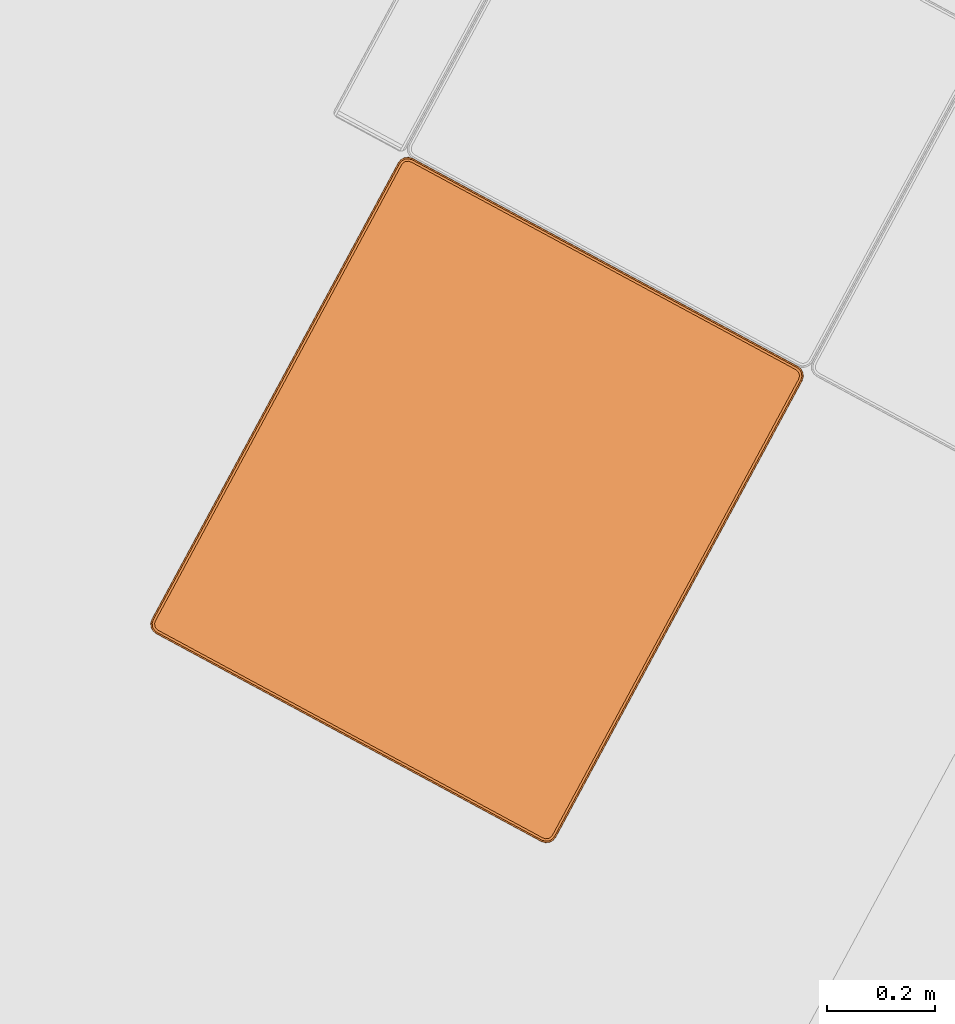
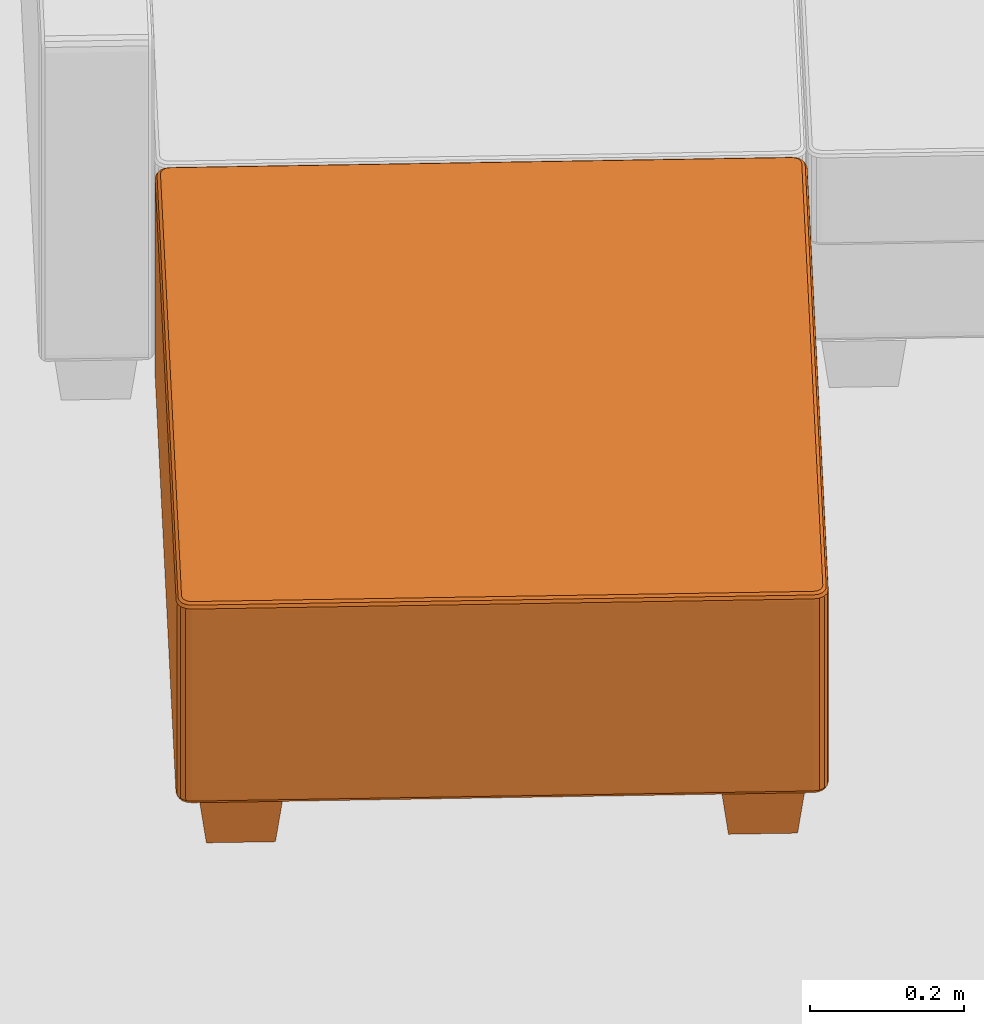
# One storey, part 44 of 52: 1 proxy.
"""IFC2X3 building model written with IfcOpenShell, lengths in metres."""

from ifc_helpers import new_model, entity, si_unit, converted_unit, derived_unit, money_unit, direction, frame, origin_with_axes, place, context, subcontext, project, spatial, faceted_brep, type_object, element, save


model = new_model("IFC2X3")

# Units and contexts
model_context = context("Model", 3, precision=1e-05, world=origin_with_axes(), true_north=direction((0.0, 1.0)))
body_context = subcontext(model_context, "Body", "Model", "MODEL_VIEW")
ifc_project = project(units=[si_unit("LENGTHUNIT", "METRE"), si_unit("AREAUNIT", "SQUARE_METRE"), si_unit("VOLUMEUNIT", "CUBIC_METRE"), converted_unit("PLANEANGLEUNIT", "DEGREE", entity("IfcPlaneAngleMeasure", 0.0174532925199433), si_unit("PLANEANGLEUNIT", "RADIAN"), dimensions=[0, 0, 0, 0, 0, 0, 0]), money_unit("EUR"), converted_unit("TIMEUNIT", "Year", entity("IfcTimeMeasure", 31556926.0), si_unit("TIMEUNIT", "SECOND"), dimensions=[0, 0, 1, 0, 0, 0, 0]), si_unit("MASSUNIT", "GRAM", prefix="KILO"), si_unit("THERMODYNAMICTEMPERATUREUNIT", "DEGREE_CELSIUS"), si_unit("LUMINOUSINTENSITYUNIT", "LUMEN"), si_unit("ENERGYUNIT", "JOULE", prefix="MEGA"), derived_unit("THERMALCONDUCTANCEUNIT", [(si_unit("POWERUNIT", "WATT"), 1), (si_unit("LENGTHUNIT", "METRE"), -1), (si_unit("THERMODYNAMICTEMPERATUREUNIT", "KELVIN"), -1)]), derived_unit("SPECIFICHEATCAPACITYUNIT", [(si_unit("ENERGYUNIT", "JOULE"), 1), (si_unit("MASSUNIT", "GRAM", prefix="KILO"), -1), (si_unit("THERMODYNAMICTEMPERATUREUNIT", "KELVIN"), -1)]), derived_unit("MASSDENSITYUNIT", [(si_unit("MASSUNIT", "GRAM", prefix="KILO"), 1), (si_unit("VOLUMEUNIT", "CUBIC_METRE"), -1)])], contexts=[model_context])

# Site, building, storey
site_placement = place(None, frame((-3.949935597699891, 1.740105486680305, 0.0), z_axis=(0.0, 0.0, 1.0), x_axis=(0.8799804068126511, -0.475009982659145, 0.0)))
site = spatial("IfcSite", under=ifc_project, at=site_placement, Name="Gelände", CompositionType="ELEMENT")
building_placement = place(site_placement, origin_with_axes())
building = spatial("IfcBuilding", under=site, at=building_placement, Name="Gebäude", CompositionType="ELEMENT")
storey_placement = place(building_placement, origin_with_axes())
storey = spatial("IfcBuildingStorey", under=building, at=storey_placement, Name="Erdgeschoss", CompositionType="ELEMENT", Elevation=0.0)

# Proxy
building_element_proxy_type = type_object("IfcBuildingElementProxyType", Name="Sofa Set 01 17", PredefinedType="NOTDEFINED")
proxy_placement = place(storey_placement, frame((6.702306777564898, 4.766019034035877, 0.0), z_axis=(0.0, 0.0, 1.0), x_axis=(0.0, 1.0, 0.0)))
element("IfcBuildingElementProxy", 1, at=proxy_placement, inside=storey, type_object=building_element_proxy_type, Name="Objekt-0089", context=body_context, shape_type="Brep", body=[
    faceted_brep([(0.0, 0.02, 0.24), (-0.001522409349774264, 0.01234633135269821, 0.24), (-0.005857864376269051, 0.005857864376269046, 0.24), (-0.01234633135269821, 0.001522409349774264, 0.24), (-0.02, 0.0, 0.24), (-0.98, 0.0, 0.24), (-0.9876536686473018, 0.001522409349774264, 0.24), (-0.9941421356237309, 0.005857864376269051, 0.24), (-0.9984775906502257, 0.01234633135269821, 0.24), (-1.0, 0.02, 0.24), (-1.0, 0.8300048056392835, 0.24), (-0.9984775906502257, 0.8376584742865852, 0.24), (-0.9941421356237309, 0.8441469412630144, 0.24), (-0.9876536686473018, 0.8484823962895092, 0.24), (-0.98, 0.8500048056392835, 0.24), (-0.02, 0.8500048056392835, 0.24), (-0.01234633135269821, 0.8484823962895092, 0.24), (-0.005857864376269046, 0.8441469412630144, 0.24), (-0.001522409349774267, 0.8376584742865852, 0.24), (0.0, 0.8300048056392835, 0.24), (3.895163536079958e-10, 0.02000000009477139, 0.39), (-0.001522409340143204, 0.01234633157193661, 0.39), (-0.00585786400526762, 0.00585786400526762, 0.39), (-0.01234633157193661, 0.001522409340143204, 0.39), (-0.02000000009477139, -3.895163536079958e-10, 0.39), (-0.9800000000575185, -3.895163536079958e-10, 0.39), (-0.9876536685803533, 0.001522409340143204, 0.39), (-0.9941421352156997, 0.00585786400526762, 0.39), (-0.9984775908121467, 0.01234633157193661, 0.39), (-0.9999999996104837, 0.02000000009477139, 0.39), (-0.9999999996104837, 0.8300048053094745, 0.39), (-0.9984775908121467, 0.8376584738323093, 0.39), (-0.9941421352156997, 0.8441469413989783, 0.39), (-0.9876536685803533, 0.8484823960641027, 0.39), (-0.9800000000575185, 0.8500048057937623, 0.39), (-0.02000000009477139, 0.8500048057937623, 0.39), (-0.01234633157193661, 0.8484823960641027, 0.39), (-0.00585786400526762, 0.8441469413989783, 0.39), (-0.001522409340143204, 0.8376584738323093, 0.39), (3.895163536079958e-10, 0.8300048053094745, 0.39), (-0.0003407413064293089, 0.02003356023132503, 0.3925881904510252), (-0.001843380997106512, 0.01247928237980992, 0.3925881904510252), (-0.006103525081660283, 0.006103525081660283, 0.3925881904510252), (-0.01247928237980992, 0.001843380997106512, 0.3925881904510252), (-0.02003356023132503, 0.0003407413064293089, 0.3925881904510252), (-0.9799664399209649, 0.0003407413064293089, 0.3925881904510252), (-0.9875207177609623, 0.001843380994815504, 0.3925881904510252), (-0.993896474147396, 0.006103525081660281, 0.3925881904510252), (-0.9981566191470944, 0.01247928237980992, 0.3925881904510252), (-0.999659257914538, 0.02003356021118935, 0.3925881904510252), (-0.999659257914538, 0.8299712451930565, 0.3925881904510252), (-0.9981566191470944, 0.837525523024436, 0.3925881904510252), (-0.993896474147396, 0.8439012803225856, 0.3925881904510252), (-0.9875207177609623, 0.8481614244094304, 0.3925881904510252), (-0.9799664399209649, 0.8496640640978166, 0.3925881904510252), (-0.02003356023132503, 0.8496640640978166, 0.3925881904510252), (-0.01247928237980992, 0.8481614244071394, 0.3925881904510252), (-0.006103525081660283, 0.8439012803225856, 0.3925881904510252), (-0.001843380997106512, 0.837525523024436, 0.3925881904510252), (-0.0003407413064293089, 0.8299712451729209, 0.3925881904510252), (-0.002928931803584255, 0.02028847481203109, 0.3970710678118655), (-0.004281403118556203, 0.01348914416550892, 0.3970710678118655), (-0.007969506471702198, 0.007969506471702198, 0.3970710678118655), (-0.01348914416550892, 0.004281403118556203, 0.3970710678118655), (-0.02028847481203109, 0.002928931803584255, 0.3970710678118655), (-0.9797115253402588, 0.002928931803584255, 0.3970710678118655), (-0.9865108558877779, 0.004281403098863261, 0.3970710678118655), (-0.9920304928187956, 0.007969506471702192, 0.3970710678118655), (-0.9957185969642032, 0.0134891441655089, 0.3970710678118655), (-0.997071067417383, 0.02028847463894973, 0.3970710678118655), (-0.997071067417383, 0.8297163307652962, 0.3970710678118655), (-0.9957185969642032, 0.836515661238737, 0.3970710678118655), (-0.9920304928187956, 0.8420352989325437, 0.3970710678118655), (-0.9865108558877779, 0.8457234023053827, 0.3970710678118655), (-0.9797115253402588, 0.8470758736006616, 0.3970710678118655), (-0.02028847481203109, 0.8470758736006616, 0.3970710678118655), (-0.01348914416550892, 0.8457234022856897, 0.3970710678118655), (-0.007969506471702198, 0.8420352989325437, 0.3970710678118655), (-0.004281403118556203, 0.836515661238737, 0.3970710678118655), (-0.002928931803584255, 0.8297163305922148, 0.3970710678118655), (-0.007411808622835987, 0.02072999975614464, 0.3996592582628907), (-0.008504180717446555, 0.01523827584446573, 0.3996592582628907), (-0.01120148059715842, 0.01120148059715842, 0.3996592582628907), (-0.01523827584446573, 0.008504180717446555, 0.3996592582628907), (-0.02072999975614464, 0.007411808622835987, 0.3996592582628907), (-0.9792700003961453, 0.007411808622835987, 0.3996592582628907), (-0.9847617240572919, 0.008504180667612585, 0.3996592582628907), (-0.9887985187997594, 0.0112014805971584, 0.3996592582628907), (-0.9914958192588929, 0.0152382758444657, 0.3996592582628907), (-0.9925881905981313, 0.02072999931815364, 0.3996592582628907), (-0.9925881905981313, 0.8292748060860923, 0.3996592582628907), (-0.9914958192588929, 0.8347665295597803, 0.3996592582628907), (-0.9887985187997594, 0.8388033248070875, 0.3996592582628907), (-0.9847617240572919, 0.8415006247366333, 0.3996592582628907), (-0.9792700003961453, 0.8425929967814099, 0.3996592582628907), (-0.02072999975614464, 0.8425929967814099, 0.3996592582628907), (-0.01523827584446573, 0.8415006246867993, 0.3996592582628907), (-0.01120148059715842, 0.8388033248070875, 0.3996592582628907), (-0.008504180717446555, 0.8347665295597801, 0.3996592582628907), (-0.007411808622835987, 0.8292748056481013, 0.3996592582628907), (-0.01000000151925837, 0.02098491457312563, 0.4000000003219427), (-0.01094220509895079, 0.01624813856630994, 0.4000000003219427), (-0.01306746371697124, 0.01306746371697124, 0.4000000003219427), (-0.01624813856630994, 0.01094220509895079, 0.4000000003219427), (-0.02098491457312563, 0.01000000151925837, 0.4000000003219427), (-0.9790150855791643, 0.01000000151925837, 0.4000000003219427), (-0.9837518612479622, 0.01094220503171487, 0.4000000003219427), (-0.9869325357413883, 0.01306746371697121, 0.4000000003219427), (-0.989057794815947, 0.01624813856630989, 0.4000000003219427), (-0.989999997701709, 0.02098491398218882, 0.4000000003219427), (-0.989999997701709, 0.8290198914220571, 0.4000000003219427), (-0.989057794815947, 0.833756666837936, 0.4000000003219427), (-0.9869325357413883, 0.8369373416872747, 0.4000000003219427), (-0.9837518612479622, 0.839062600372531, 0.4000000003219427), (-0.9790150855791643, 0.8400048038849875, 0.4000000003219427), (-0.02098491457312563, 0.8400048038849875, 0.4000000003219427), (-0.01624813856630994, 0.8390626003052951, 0.4000000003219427), (-0.01306746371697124, 0.8369373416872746, 0.4000000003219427), (-0.01094220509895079, 0.8337566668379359, 0.4000000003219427), (-0.01000000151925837, 0.8290198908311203, 0.4000000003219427)], [[[0, 1, 2, 3, 4, 5, 6, 7, 8, 9, 10, 11, 12, 13, 14, 15, 16, 17, 18, 19]], [[0, 20, 21, 1]], [[1, 21, 22, 2]], [[2, 22, 23, 3]], [[3, 23, 24, 4]], [[4, 24, 25, 5]], [[5, 25, 26, 6]], [[6, 26, 27, 7]], [[7, 27, 28, 8]], [[8, 28, 29, 9]], [[9, 29, 30, 10]], [[10, 30, 31, 11]], [[11, 31, 32, 12]], [[12, 32, 33, 13]], [[13, 33, 34, 14]], [[14, 34, 35, 15]], [[15, 35, 36, 16]], [[16, 36, 37, 17]], [[17, 37, 38, 18]], [[18, 38, 39, 19]], [[19, 39, 20, 0]], [[20, 40, 41, 21]], [[21, 41, 42, 22]], [[22, 42, 43, 23]], [[23, 43, 44, 24]], [[24, 44, 45, 25]], [[25, 45, 46, 26]], [[26, 46, 47, 27]], [[27, 47, 48, 28]], [[28, 48, 49, 29]], [[29, 49, 50, 30]], [[30, 50, 51, 31]], [[31, 51, 52, 32]], [[32, 52, 53, 33]], [[33, 53, 54, 34]], [[34, 54, 55, 35]], [[35, 55, 56, 36]], [[36, 56, 57, 37]], [[37, 57, 58, 38]], [[38, 58, 59, 39]], [[39, 59, 40, 20]], [[40, 60, 61, 41]], [[41, 61, 62, 42]], [[42, 62, 63, 43]], [[43, 63, 64, 44]], [[44, 64, 65, 45]], [[45, 65, 66, 46]], [[46, 66, 67, 47]], [[47, 67, 68, 48]], [[48, 68, 69, 49]], [[49, 69, 70, 50]], [[50, 70, 71, 51]], [[51, 71, 72, 52]], [[52, 72, 73, 53]], [[53, 73, 74, 54]], [[54, 74, 75, 55]], [[55, 75, 76, 56]], [[56, 76, 77, 57]], [[57, 77, 78, 58]], [[58, 78, 79, 59]], [[59, 79, 60, 40]], [[60, 80, 81, 61]], [[61, 81, 82, 62]], [[62, 82, 83, 63]], [[63, 83, 84, 64]], [[64, 84, 85, 65]], [[65, 85, 86, 66]], [[66, 86, 87, 67]], [[67, 87, 88, 68]], [[68, 88, 89, 69]], [[69, 89, 90, 70]], [[70, 90, 91, 71]], [[71, 91, 92, 72]], [[72, 92, 93, 73]], [[73, 93, 94, 74]], [[74, 94, 95, 75]], [[75, 95, 96, 76]], [[76, 96, 97, 77]], [[77, 97, 98, 78]], [[78, 98, 99, 79]], [[79, 99, 80, 60]], [[80, 100, 101, 81]], [[81, 101, 102, 82]], [[82, 102, 103, 83]], [[83, 103, 104, 84]], [[84, 104, 105, 85]], [[85, 105, 106, 86]], [[86, 106, 107, 87]], [[87, 107, 108, 88]], [[88, 108, 109, 89]], [[89, 109, 110, 90]], [[90, 110, 111, 91]], [[91, 111, 112, 92]], [[92, 112, 113, 93]], [[93, 113, 114, 94]], [[94, 114, 115, 95]], [[95, 115, 116, 96]], [[96, 116, 117, 97]], [[97, 117, 118, 98]], [[98, 118, 119, 99]], [[99, 119, 100, 80]], [[118, 117, 116, 115, 114, 113, 112, 111, 110, 109, 108, 107, 106, 105, 104, 103, 102, 101, 100, 119]]]),
    faceted_brep([(0.0, 0.02, 0.24), (0.0, 0.8300048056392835, 0.24), (-0.001522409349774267, 0.8376584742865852, 0.24), (-0.005857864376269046, 0.8441469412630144, 0.24), (-0.01234633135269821, 0.8484823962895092, 0.24), (-0.02, 0.8500048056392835, 0.24), (-0.98, 0.8500048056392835, 0.24), (-0.9876536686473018, 0.8484823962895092, 0.24), (-0.9941421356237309, 0.8441469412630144, 0.24), (-0.9984775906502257, 0.8376584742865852, 0.24), (-1.0, 0.8300048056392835, 0.24), (-1.0, 0.02, 0.24), (-0.9984775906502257, 0.01234633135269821, 0.24), (-0.9941421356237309, 0.005857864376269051, 0.24), (-0.9876536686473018, 0.001522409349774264, 0.24), (-0.98, 0.0, 0.24), (-0.02, 0.0, 0.24), (-0.01234633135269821, 0.001522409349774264, 0.24), (-0.005857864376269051, 0.005857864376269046, 0.24), (-0.001522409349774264, 0.01234633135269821, 0.24), (3.895163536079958e-10, 0.02000000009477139, 0.09), (3.895163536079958e-10, 0.8300048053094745, 0.09), (-0.001522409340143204, 0.8376584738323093, 0.09), (-0.00585786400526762, 0.8441469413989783, 0.09), (-0.01234633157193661, 0.8484823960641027, 0.09), (-0.02000000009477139, 0.8500048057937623, 0.09), (-0.9800000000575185, 0.8500048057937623, 0.09), (-0.9876536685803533, 0.8484823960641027, 0.09), (-0.9941421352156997, 0.8441469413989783, 0.09), (-0.9984775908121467, 0.8376584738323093, 0.09), (-0.9999999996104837, 0.8300048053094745, 0.09), (-0.9999999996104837, 0.02000000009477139, 0.09), (-0.9984775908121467, 0.01234633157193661, 0.09), (-0.9941421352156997, 0.00585786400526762, 0.09), (-0.9876536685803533, 0.001522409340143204, 0.09), (-0.9800000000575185, -3.895163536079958e-10, 0.09), (-0.02000000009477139, -3.895163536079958e-10, 0.09), (-0.01234633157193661, 0.001522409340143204, 0.09), (-0.00585786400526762, 0.00585786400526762, 0.09), (-0.001522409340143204, 0.01234633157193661, 0.09), (-0.0003407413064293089, 0.02003356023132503, 0.08741180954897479), (-0.0003407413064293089, 0.8299712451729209, 0.08741180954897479), (-0.001843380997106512, 0.837525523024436, 0.08741180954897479), (-0.006103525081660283, 0.8439012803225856, 0.08741180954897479), (-0.01247928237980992, 0.8481614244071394, 0.08741180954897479), (-0.02003356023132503, 0.8496640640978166, 0.08741180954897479), (-0.9799664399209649, 0.8496640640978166, 0.08741180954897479), (-0.9875207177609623, 0.8481614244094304, 0.08741180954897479), (-0.993896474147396, 0.8439012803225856, 0.08741180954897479), (-0.9981566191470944, 0.837525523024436, 0.08741180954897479), (-0.999659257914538, 0.8299712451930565, 0.08741180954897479), (-0.999659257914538, 0.02003356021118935, 0.08741180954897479), (-0.9981566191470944, 0.01247928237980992, 0.08741180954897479), (-0.993896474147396, 0.006103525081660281, 0.08741180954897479), (-0.9875207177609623, 0.001843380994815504, 0.08741180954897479), (-0.9799664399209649, 0.0003407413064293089, 0.08741180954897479), (-0.02003356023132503, 0.0003407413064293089, 0.08741180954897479), (-0.01247928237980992, 0.001843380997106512, 0.08741180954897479), (-0.006103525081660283, 0.006103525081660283, 0.08741180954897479), (-0.001843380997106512, 0.01247928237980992, 0.08741180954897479), (-0.002928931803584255, 0.02028847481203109, 0.08292893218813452), (-0.002928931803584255, 0.8297163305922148, 0.08292893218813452), (-0.004281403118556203, 0.836515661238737, 0.08292893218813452), (-0.007969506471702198, 0.8420352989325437, 0.08292893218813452), (-0.01348914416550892, 0.8457234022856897, 0.08292893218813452), (-0.02028847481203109, 0.8470758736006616, 0.08292893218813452), (-0.9797115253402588, 0.8470758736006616, 0.08292893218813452), (-0.9865108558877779, 0.8457234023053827, 0.08292893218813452), (-0.9920304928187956, 0.8420352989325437, 0.08292893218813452), (-0.9957185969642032, 0.836515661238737, 0.08292893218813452), (-0.997071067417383, 0.8297163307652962, 0.08292893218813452), (-0.997071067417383, 0.02028847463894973, 0.08292893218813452), (-0.9957185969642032, 0.0134891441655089, 0.08292893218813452), (-0.9920304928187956, 0.007969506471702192, 0.08292893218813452), (-0.9865108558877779, 0.004281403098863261, 0.08292893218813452), (-0.9797115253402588, 0.002928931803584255, 0.08292893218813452), (-0.02028847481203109, 0.002928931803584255, 0.08292893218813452), (-0.01348914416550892, 0.004281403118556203, 0.08292893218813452), (-0.007969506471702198, 0.007969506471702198, 0.08292893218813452), (-0.004281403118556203, 0.01348914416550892, 0.08292893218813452), (-0.007411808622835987, 0.02072999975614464, 0.08034074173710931), (-0.007411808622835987, 0.8292748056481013, 0.08034074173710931), (-0.008504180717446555, 0.8347665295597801, 0.08034074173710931), (-0.01120148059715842, 0.8388033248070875, 0.08034074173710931), (-0.01523827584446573, 0.8415006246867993, 0.08034074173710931), (-0.02072999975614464, 0.8425929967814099, 0.08034074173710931), (-0.9792700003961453, 0.8425929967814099, 0.08034074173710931), (-0.9847617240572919, 0.8415006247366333, 0.08034074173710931), (-0.9887985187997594, 0.8388033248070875, 0.08034074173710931), (-0.9914958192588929, 0.8347665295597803, 0.08034074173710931), (-0.9925881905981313, 0.8292748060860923, 0.08034074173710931), (-0.9925881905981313, 0.02072999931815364, 0.08034074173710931), (-0.9914958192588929, 0.0152382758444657, 0.08034074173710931), (-0.9887985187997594, 0.0112014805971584, 0.08034074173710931), (-0.9847617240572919, 0.008504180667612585, 0.08034074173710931), (-0.9792700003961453, 0.007411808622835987, 0.08034074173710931), (-0.02072999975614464, 0.007411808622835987, 0.08034074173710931), (-0.01523827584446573, 0.008504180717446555, 0.08034074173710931), (-0.01120148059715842, 0.01120148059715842, 0.08034074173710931), (-0.008504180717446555, 0.01523827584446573, 0.08034074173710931), (-0.01000000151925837, 0.02098491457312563, 0.07999999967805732), (-0.01000000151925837, 0.8290198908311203, 0.07999999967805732), (-0.01094220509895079, 0.8337566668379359, 0.07999999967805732), (-0.01306746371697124, 0.8369373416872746, 0.07999999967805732), (-0.01624813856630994, 0.8390626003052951, 0.07999999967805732), (-0.02098491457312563, 0.8400048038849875, 0.07999999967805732), (-0.9790150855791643, 0.8400048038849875, 0.07999999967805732), (-0.9837518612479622, 0.839062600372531, 0.07999999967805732), (-0.9869325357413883, 0.8369373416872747, 0.07999999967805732), (-0.989057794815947, 0.833756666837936, 0.07999999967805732), (-0.989999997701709, 0.8290198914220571, 0.07999999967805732), (-0.989999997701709, 0.02098491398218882, 0.07999999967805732), (-0.989057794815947, 0.01624813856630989, 0.07999999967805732), (-0.9869325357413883, 0.01306746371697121, 0.07999999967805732), (-0.9837518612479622, 0.01094220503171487, 0.07999999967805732), (-0.9790150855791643, 0.01000000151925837, 0.07999999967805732), (-0.02098491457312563, 0.01000000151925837, 0.07999999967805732), (-0.01624813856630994, 0.01094220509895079, 0.07999999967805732), (-0.01306746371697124, 0.01306746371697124, 0.07999999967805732), (-0.01094220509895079, 0.01624813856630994, 0.07999999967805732)], [[[0, 1, 2, 3, 4, 5, 6, 7, 8, 9, 10, 11, 12, 13, 14, 15, 16, 17, 18, 19]], [[1, 0, 20, 21]], [[2, 1, 21, 22]], [[3, 2, 22, 23]], [[4, 3, 23, 24]], [[5, 4, 24, 25]], [[6, 5, 25, 26]], [[7, 6, 26, 27]], [[8, 7, 27, 28]], [[9, 8, 28, 29]], [[10, 9, 29, 30]], [[11, 10, 30, 31]], [[12, 11, 31, 32]], [[13, 12, 32, 33]], [[14, 13, 33, 34]], [[15, 14, 34, 35]], [[16, 15, 35, 36]], [[17, 16, 36, 37]], [[18, 17, 37, 38]], [[19, 18, 38, 39]], [[0, 19, 39, 20]], [[21, 20, 40, 41]], [[22, 21, 41, 42]], [[23, 22, 42, 43]], [[24, 23, 43, 44]], [[25, 24, 44, 45]], [[26, 25, 45, 46]], [[27, 26, 46, 47]], [[28, 27, 47, 48]], [[29, 28, 48, 49]], [[30, 29, 49, 50]], [[31, 30, 50, 51]], [[32, 31, 51, 52]], [[33, 32, 52, 53]], [[34, 33, 53, 54]], [[35, 34, 54, 55]], [[36, 35, 55, 56]], [[37, 36, 56, 57]], [[38, 37, 57, 58]], [[39, 38, 58, 59]], [[20, 39, 59, 40]], [[41, 40, 60, 61]], [[42, 41, 61, 62]], [[43, 42, 62, 63]], [[44, 43, 63, 64]], [[45, 44, 64, 65]], [[46, 45, 65, 66]], [[47, 46, 66, 67]], [[48, 47, 67, 68]], [[49, 48, 68, 69]], [[50, 49, 69, 70]], [[51, 50, 70, 71]], [[52, 51, 71, 72]], [[53, 52, 72, 73]], [[54, 53, 73, 74]], [[55, 54, 74, 75]], [[56, 55, 75, 76]], [[57, 56, 76, 77]], [[58, 57, 77, 78]], [[59, 58, 78, 79]], [[40, 59, 79, 60]], [[61, 60, 80, 81]], [[62, 61, 81, 82]], [[63, 62, 82, 83]], [[64, 63, 83, 84]], [[65, 64, 84, 85]], [[66, 65, 85, 86]], [[67, 66, 86, 87]], [[68, 67, 87, 88]], [[69, 68, 88, 89]], [[70, 69, 89, 90]], [[71, 70, 90, 91]], [[72, 71, 91, 92]], [[73, 72, 92, 93]], [[74, 73, 93, 94]], [[75, 74, 94, 95]], [[76, 75, 95, 96]], [[77, 76, 96, 97]], [[78, 77, 97, 98]], [[79, 78, 98, 99]], [[60, 79, 99, 80]], [[81, 80, 100, 101]], [[82, 81, 101, 102]], [[83, 82, 102, 103]], [[84, 83, 103, 104]], [[85, 84, 104, 105]], [[86, 85, 105, 106]], [[87, 86, 106, 107]], [[88, 87, 107, 108]], [[89, 88, 108, 109]], [[90, 89, 109, 110]], [[91, 90, 110, 111]], [[92, 91, 111, 112]], [[93, 92, 112, 113]], [[94, 93, 113, 114]], [[95, 94, 114, 115]], [[96, 95, 115, 116]], [[97, 96, 116, 117]], [[98, 97, 117, 118]], [[99, 98, 118, 119]], [[80, 99, 119, 100]], [[102, 101, 100, 119, 118, 117, 116, 115, 114, 113, 112, 111, 110, 109, 108, 107, 106, 105, 104, 103]]]),
    faceted_brep([(-0.12, 0.04, 0.0), (-0.13, 0.02999999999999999, 0.08), (-0.13, 0.14, 0.08), (-0.12, 0.13, 0.0), (-0.03000000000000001, 0.04000000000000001, 0.0), (-0.02, 0.03000000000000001, 0.08), (-0.02, 0.14, 0.08), (-0.03000000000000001, 0.13, 0.0)], [[[0, 1, 2, 3]], [[4, 5, 1, 0]], [[1, 5, 6, 2]], [[3, 2, 6, 7]], [[0, 3, 7, 4]], [[7, 6, 5, 4]]]),
    faceted_brep([(-0.12, 0.7200048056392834, 0.0), (-0.13, 0.7100048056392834, 0.08), (-0.13, 0.8200048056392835, 0.08), (-0.12, 0.8100048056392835, 0.0), (-0.03000000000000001, 0.7200048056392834, 0.0), (-0.02, 0.7100048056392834, 0.08), (-0.02, 0.8200048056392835, 0.08), (-0.03000000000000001, 0.8100048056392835, 0.0)], [[[0, 1, 2, 3]], [[4, 5, 1, 0]], [[1, 5, 6, 2]], [[3, 2, 6, 7]], [[0, 3, 7, 4]], [[7, 6, 5, 4]]]),
    faceted_brep([(-0.9700000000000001, 0.7200048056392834, 0.0), (-0.9800000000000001, 0.7100048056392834, 0.08), (-0.9800000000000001, 0.8200048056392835, 0.08), (-0.9700000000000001, 0.8100048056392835, 0.0), (-0.88, 0.7200048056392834, 0.0), (-0.87, 0.7100048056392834, 0.08), (-0.87, 0.8200048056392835, 0.08), (-0.88, 0.8100048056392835, 0.0)], [[[0, 1, 2, 3]], [[4, 5, 1, 0]], [[1, 5, 6, 2]], [[3, 2, 6, 7]], [[0, 3, 7, 4]], [[7, 6, 5, 4]]]),
    faceted_brep([(-0.9700000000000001, 0.03999999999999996, 0.0), (-0.9800000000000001, 0.02999999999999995, 0.08), (-0.9800000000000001, 0.14, 0.08), (-0.9700000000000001, 0.1299999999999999, 0.0), (-0.88, 0.03999999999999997, 0.0), (-0.87, 0.02999999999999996, 0.08), (-0.87, 0.14, 0.08), (-0.88, 0.1299999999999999, 0.0)], [[[0, 1, 2, 3]], [[4, 5, 1, 0]], [[1, 5, 6, 2]], [[3, 2, 6, 7]], [[0, 3, 7, 4]], [[7, 6, 5, 4]]]),
])

save(model, "model.ifc")
